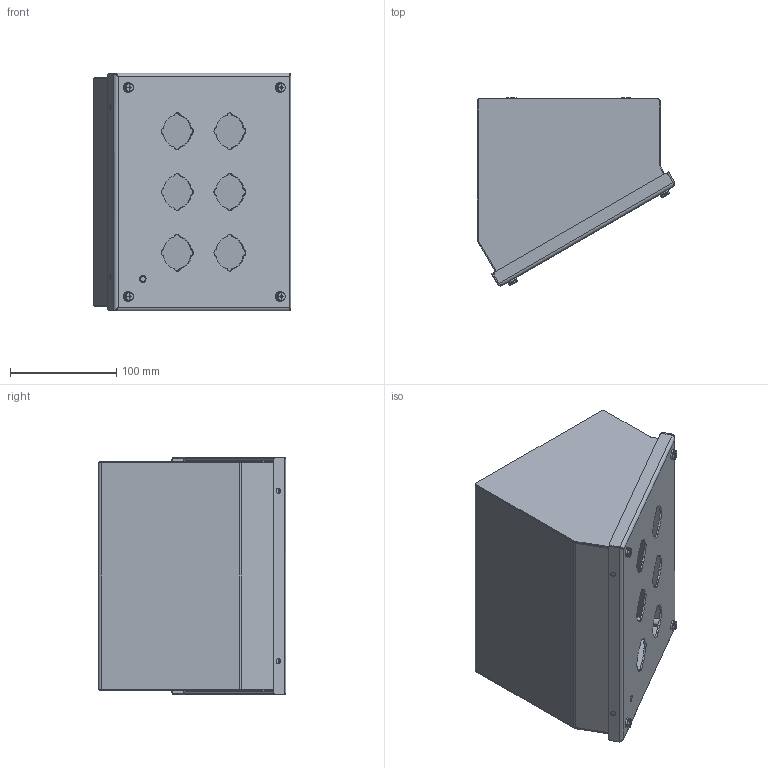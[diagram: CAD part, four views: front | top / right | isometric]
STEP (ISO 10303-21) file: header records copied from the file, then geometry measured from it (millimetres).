
FILE_DESCRIPTION((''),'2;1');
FILE_NAME('MODEL-296_ASM','2021-06-08T10:07:05',('mikek'),('SAGINAW CONTROL & ENGINEERING'),'CREO PARAMETRIC BY PTC INC, 2017260','CREO PARAMETRIC BY PTC INC, 2017260','');
FILE_SCHEMA(('AUTOMOTIVE_DESIGN { 1 0 10303 214 1 1 1 1 }'));
Length unit declared in the file: inch
Products named in the file (14): MODEL-296-BDY; MODEL-296-DR; 100063; 100983; 102534; MODEL-296-GSKT; 100009; CH-ELJ_SUBPANEL; 102479; CH-ELJ_SUBPANEL-SUBASSEMBLY_ASM; 120706; MODEL-296-R-SD; MODEL-296-L-SD; MODEL-296_ASM
Assembly tree (26 placements, depth 3):
  MODEL-296_ASM
    MODEL-296-BDY
    MODEL-296-DR
    100063
    100983  x4
    102534  x4
    MODEL-296-GSKT
    100009  x5
    CH-ELJ_SUBPANEL-SUBASSEMBLY_ASM
      CH-ELJ_SUBPANEL
      102479  x4
    120706
    MODEL-296-R-SD
    MODEL-296-L-SD
Bounding box: 186 x 176.67 x 223.84 mm (x, y, z)
Volume: 348056.5 mm3; surface area: 452552.2 mm2
Topology: 28 solids, 28 shells, 1109 faces, 2782 edges, 1608 vertices
Faces by surface type: cylinder 404, plane 389, bspline 168, torus 96, cone 44, sphere 8
Entity records: 27820 total; most frequent: CARTESIAN_POINT 4757, DIRECTION 3277, ORIENTED_EDGE 3004, EDGE_CURVE 1502, PRESENTATION_STYLE_ASSIGNMENT 1417, STYLED_ITEM 1417, CURVE_STYLE 1338, AXIS2_PLACEMENT_3D 1273
